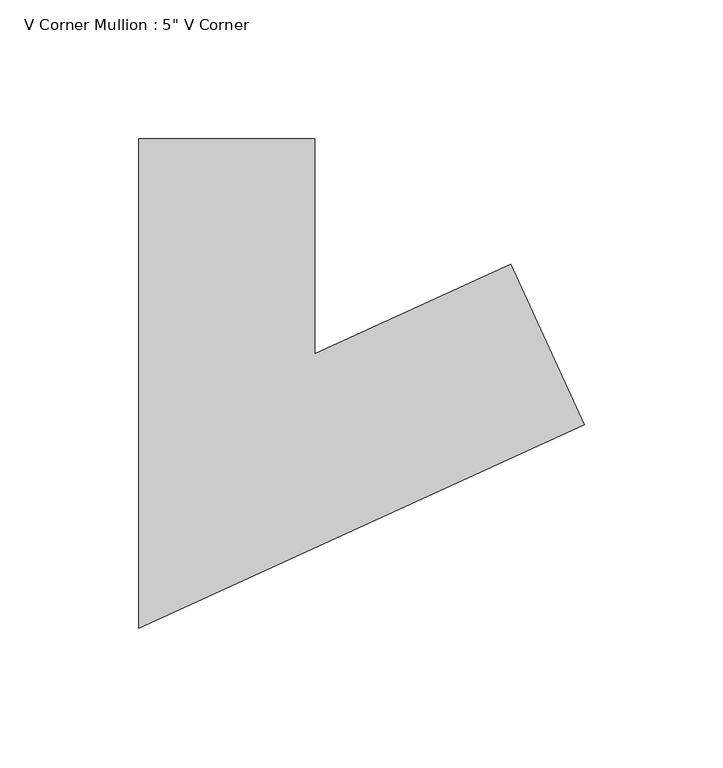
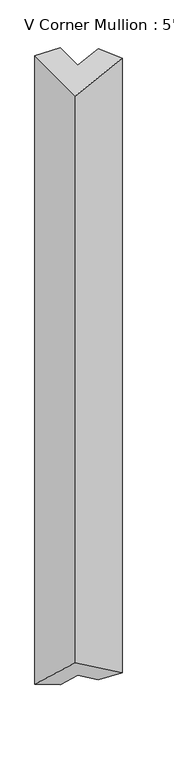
"""IFC4 building model written with IfcOpenShell, lengths in millimetres: member geometry."""

import ifcopenshell
import ifcopenshell.guid

model = None  # the IFC model being written
_history = None  # IfcOwnerHistory: only IFC2X3 demands one
_inside = {}  # id of a spatial element -> (the spatial element, [elements in it])
_under = {}  # id of a project, library or spatial element -> (it, [spatial elements below it])
_declared = {}  # id of a project -> (the project, [libraries it declares])
_typed = {}  # id of a type object -> (the type object, [elements of that type])
_made_of = {}  # id of a material, layer set ... -> (it, [elements and type objects made of it])


def new_model(schema):
    """Start an empty IFC model of exactly this schema.

    Asked for "IFC4X3", IfcOpenShell would pick the latest addendum, in which some entities
    have other attributes; the version numbers below select the first issue.
    IFC2X3 requires an IfcOwnerHistory on every rooted entity: one is made here for all.
    """
    global model, _history
    if schema == "IFC4X3":
        model = ifcopenshell.file(schema_version=(4, 3, 0, 0))
    else:
        model = ifcopenshell.file(schema=schema)
    _inside.clear()
    _under.clear()
    _declared.clear()
    _typed.clear()
    _made_of.clear()
    _history = None
    if model.schema == "IFC2X3":
        org = make("IfcOrganization", Name="unknown")
        user = make(
            "IfcPersonAndOrganization",
            ThePerson=make("IfcPerson", FamilyName="unknown"),
            TheOrganization=org,
        )
        app = make(
            "IfcApplication",
            ApplicationDeveloper=org,
            Version="unknown",
            ApplicationFullName="unknown",
            ApplicationIdentifier="unknown",
        )
        _history = make(
            "IfcOwnerHistory",
            OwningUser=user,
            OwningApplication=app,
            ChangeAction="ADDED",
            CreationDate=0,
        )
    return model


def make(cls, **values):
    """One entity of the class cls with the attributes given. An attribute that is None is left unset."""
    return model.create_entity(
        cls, **{name: value for name, value in values.items() if value is not None}
    )


def rooted(cls, **values):
    """An entity with a GlobalId (a new one), such as an element, a storey or a relation."""
    return make(cls, GlobalId=ifcopenshell.guid.new(), OwnerHistory=_history, **values)


def si_unit(unit_type, name, prefix=None):
    """IfcSIUnit, for example si_unit("LENGTHUNIT", "METRE", prefix="MILLI")."""
    return make("IfcSIUnit", UnitType=unit_type, Prefix=prefix, Name=name)


def assignment(units):
    """IfcUnitAssignment: the units of a project."""
    return None if units is None else make("IfcUnitAssignment", Units=units)


def point(xyz):
    """IfcCartesianPoint."""
    return None if xyz is None else make("IfcCartesianPoint", Coordinates=xyz)


def direction(xyz):
    """IfcDirection."""
    return None if xyz is None else make("IfcDirection", DirectionRatios=xyz)


def frame(location, z_axis=None, x_axis=None):
    """IfcAxis2Placement3D, a coordinate frame: its origin and axes. An axis left out is left unset."""
    return make(
        "IfcAxis2Placement3D",
        Location=point(location),
        Axis=direction(z_axis),
        RefDirection=direction(x_axis),
    )


def origin():
    """The frame at (0, 0, 0) with its axes left unset."""
    return frame((0.0, 0.0, 0.0))


def place(relative_to, where):
    """IfcLocalPlacement: puts the frame where relative to a parent placement (None: the world)."""
    return make(
        "IfcLocalPlacement", PlacementRelTo=relative_to, RelativePlacement=where
    )


def context(
    kind, dimensions, precision=None, world=None, true_north=None, identifier=None
):
    """IfcGeometricRepresentationContext, for example the 3D "Model" context."""
    return make(
        "IfcGeometricRepresentationContext",
        ContextIdentifier=identifier,
        ContextType=kind,
        CoordinateSpaceDimension=dimensions,
        Precision=precision,
        WorldCoordinateSystem=world,
        TrueNorth=true_north,
    )


def project(units=None, contexts=None):
    """IfcProject with its units and contexts."""
    return rooted(
        "IfcProject",
        Name="project",
        RepresentationContexts=contexts,
        UnitsInContext=assignment(units),
    )


def spatial(cls, under=None, at=None, **own):
    """A site, building, storey or space (cls), placed at a placement, below another one or the project."""
    s = rooted(cls, ObjectPlacement=at, **own)
    if under is not None:
        _under.setdefault(under.id(), (under, []))[1].append(s)
    return s


def faces_of(points, faces, orient=None, outer=None):
    """IfcFace entities. A face is a list of loops; a loop is a list of indices into points, from 0.

    orient and outer hold one flag for each loop. By default every Orientation is true, the
    first loop of a face is its IfcFaceOuterBound and the others are IfcFaceBound.
    """
    made = []
    for i, loops in enumerate(faces):
        bounds = []
        for j, loop in enumerate(loops):
            is_outer = j == 0 if outer is None else outer[i][j]
            bounds.append(
                make(
                    "IfcFaceOuterBound" if is_outer else "IfcFaceBound",
                    Bound=make("IfcPolyLoop", Polygon=[points[k] for k in loop]),
                    Orientation=True if orient is None else orient[i][j],
                )
            )
        made.append(make("IfcFace", Bounds=bounds))
    return made


def faceted_brep(points, faces, orient=None, outer=None, voids=None):
    """IfcFacetedBrep: a solid bounded by flat faces; with voids (closed shells), ...WithVoids."""
    shared = [point(p) for p in points]
    hull = make("IfcClosedShell", CfsFaces=faces_of(shared, faces, orient, outer))
    if voids is None:
        return make("IfcFacetedBrep", Outer=hull)
    return make(
        "IfcFacetedBrepWithVoids",
        Outer=hull,
        Voids=[
            make(cls, CfsFaces=faces_of(shared, fs, o, b)) for cls, fs, o, b in voids
        ],
    )


def shape(context_of_items, identifier, shape_type, items):
    """IfcShapeRepresentation: the items that make up one representation, for example the "Body"."""
    return make(
        "IfcShapeRepresentation",
        ContextOfItems=context_of_items,
        RepresentationIdentifier=identifier,
        RepresentationType=shape_type,
        Items=items,
    )


def source(mapping_origin, context_of_items, identifier, shape_type, items):
    """IfcRepresentationMap: a shape defined once, which mapped items show again and again."""
    return make(
        "IfcRepresentationMap",
        MappingOrigin=mapping_origin,
        MappedRepresentation=shape(context_of_items, identifier, shape_type, items),
    )


def transform(
    local_origin,
    x_axis=None,
    y_axis=None,
    z_axis=None,
    scale=None,
    scale2=None,
    scale3=None,
    uniform=True,
):
    """IfcCartesianTransformationOperator3D, or its non-uniform kind. x_axis, y_axis, z_axis: its Axis1, 2, 3."""
    if uniform:
        return make(
            "IfcCartesianTransformationOperator3D",
            Axis1=direction(x_axis),
            Axis2=direction(y_axis),
            LocalOrigin=point(local_origin),
            Scale=scale,
            Axis3=direction(z_axis),
        )
    return make(
        "IfcCartesianTransformationOperator3DnonUniform",
        Axis1=direction(x_axis),
        Axis2=direction(y_axis),
        LocalOrigin=point(local_origin),
        Scale=scale,
        Axis3=direction(z_axis),
        Scale2=scale2,
        Scale3=scale3,
    )


def mapped(mapping_source, mapping_target):
    """IfcMappedItem: shows the shape of a source again, moved by a transform."""
    return make(
        "IfcMappedItem", MappingSource=mapping_source, MappingTarget=mapping_target
    )


def made_of(thing, what):
    """Note that an element or type object is made of a material, layer set ...; save() writes the relation."""
    if what is not None:
        _made_of.setdefault(what.id(), (what, []))[1].append(thing)
    return thing


def element(
    cls,
    number,
    at=None,
    inside=None,
    cuts=None,
    type_object=None,
    material=None,
    context=None,
    identifier="Body",
    shape_type=None,
    held_by="IfcProductDefinitionShape",
    body=None,
    shapes=None,
    **own,
):
    """One element of the class cls, such as IfcWall. Its Tag is "e" and its number.

    at: its placement. inside: the storey or other place that contains it. cuts: it is an
    opening in that element (IfcRelVoidsElement). A single representation is given by context,
    identifier, shape_type and body (its items); several are given by shapes. held_by: the class
    of the entity that holds the representations. save() writes the other relations.
    """
    e = rooted(cls, Tag="e%d" % number, ObjectPlacement=at, **own)
    if body is not None:
        shapes = [shape(context, identifier, shape_type, body)]
    if shapes is not None:
        e.Representation = make(held_by, Representations=shapes)
    if inside is not None:
        _inside.setdefault(inside.id(), (inside, []))[1].append(e)
    if cuts is not None:
        rooted(
            "IfcRelVoidsElement", RelatingBuildingElement=cuts, RelatedOpeningElement=e
        )
    if type_object is not None:
        _typed.setdefault(type_object.id(), (type_object, []))[1].append(e)
    return made_of(e, material)


def aggregate(whole, parts):
    """IfcRelAggregates: a whole, such as a stair, and the parts it consists of."""
    return rooted("IfcRelAggregates", RelatingObject=whole, RelatedObjects=parts)


def save(model, path):
    """Write the relations noted so far, then the file.

    IfcRelAggregates (storeys below a building ...), IfcRelContainedInSpatialStructure (elements
    in a storey), IfcRelDefinesByType, IfcRelAssociatesMaterial and IfcRelDeclares: one each for
    every whole, place, type object, material and project.
    """
    for whole, parts in _under.values():
        aggregate(whole, parts)
    for where, things in _inside.values():
        rooted(
            "IfcRelContainedInSpatialStructure",
            RelatedElements=things,
            RelatingStructure=where,
        )
    for kind, things in _typed.values():
        rooted("IfcRelDefinesByType", RelatedObjects=things, RelatingType=kind)
    for what, things in _made_of.values():
        rooted("IfcRelAssociatesMaterial", RelatedObjects=things, RelatingMaterial=what)
    for by, libraries in _declared.values():
        rooted("IfcRelDeclares", RelatingContext=by, RelatedDefinitions=libraries)
    model.write(path)


def member_953b912b(model_context):
    return source(origin(), model_context, "Body", "Brep", [
        faceted_brep([(87.9205542, -39.5195451, 0.0), (61.49523, 18.2208415, 0.0), (-9.0228811, -14.0523047, 0.0), (-9.0228811, 63.5, 0.0), (-72.5228811, 63.5, 0.0), (-72.5228811, -112.9476953, 0.0), (87.9205542, -39.5195451, -1636.2549977), (61.49523, 18.2208415, -1680.235499), (-9.0228811, -14.0523047, -1624.2957961), (-9.0228811, 63.5, -1696.4162159), (-72.5228811, 63.5, -1673.0695091), (-72.5228811, -112.9476953, -1508.9804868)], [[[0, 1, 2, 3, 4, 5]], [[1, 0, 6, 7]], [[2, 1, 7, 8]], [[3, 2, 8, 9]], [[4, 3, 9, 10]], [[5, 4, 10, 11]], [[0, 5, 11, 6]], [[6, 11, 10, 9, 8, 7]]]),
    ])


if __name__ == "__main__":
    model = new_model("IFC4")
    model_context = context("Model", 3, world=origin())
    ifc_project = project(units=[si_unit("LENGTHUNIT", "METRE", prefix="MILLI")], contexts=[model_context])
    site = spatial("IfcSite", under=ifc_project)
    building = spatial("IfcBuilding", under=site)
    placement = place(None, origin())
    member_shape = member_953b912b(model_context)
    element("IfcMember", 1, ObjectType="V Corner Mullion : 5\" V Corner", at=placement, inside=building, context=model_context, shape_type="MappedRepresentation", body=[
        mapped(member_shape, transform((0.0, 0.0, 0.0), x_axis=(1.0, 0.0, 0.0), y_axis=(0.0, 1.0, 0.0), z_axis=(0.0, 0.0, 1.0))),
    ])
    save(model, "model.ifc")
